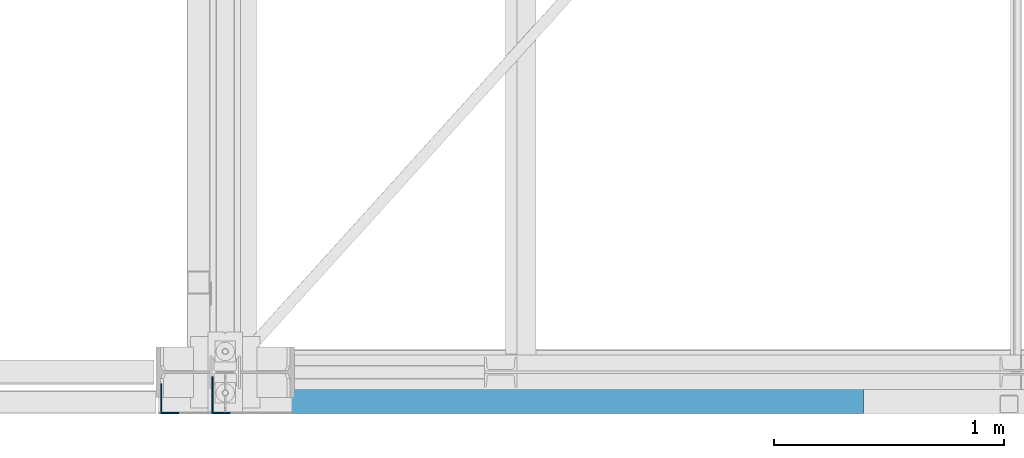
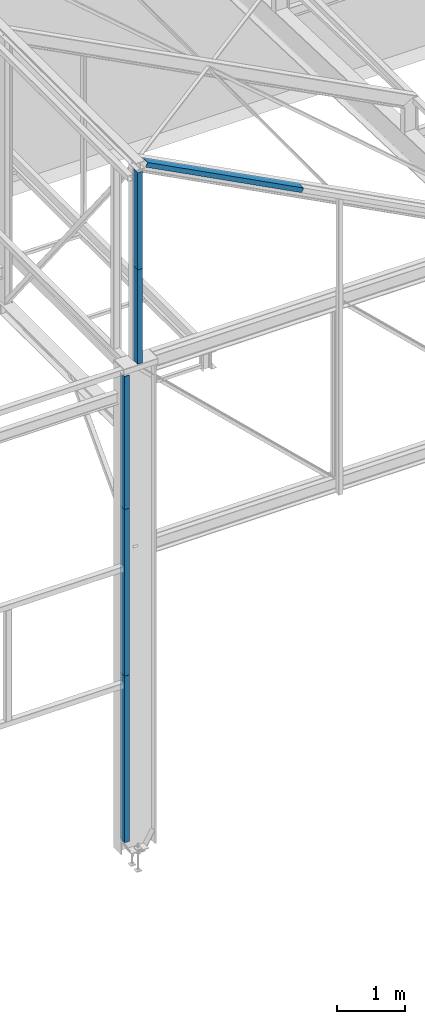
# One storey, part 115 of 123: 6 beams, 6 elements without a shape of their own.
"""IFC2X3 building model written with IfcOpenShell, lengths in millimetres."""

from ifc_helpers import new_model, si_unit, frame, origin_with_axes, place, context, subcontext, project, spatial, faceted_brep, material, type_object, element, aggregate, save


model = new_model("IFC2X3")

# Units and contexts
model_context = context("Model", 3, precision=1e-05, world=origin_with_axes())
body_context = subcontext(model_context, "Body", "Model", "MODEL_VIEW")
ifc_project = project(units=[si_unit("LENGTHUNIT", "METRE", prefix="MILLI"), si_unit("AREAUNIT", "SQUARE_METRE"), si_unit("VOLUMEUNIT", "CUBIC_METRE"), si_unit("MASSUNIT", "GRAM", prefix="KILO"), si_unit("TIMEUNIT", "SECOND"), si_unit("PLANEANGLEUNIT", "RADIAN"), si_unit("SOLIDANGLEUNIT", "STERADIAN"), si_unit("THERMODYNAMICTEMPERATUREUNIT", "DEGREE_CELSIUS"), si_unit("LUMINOUSINTENSITYUNIT", "LUMEN")], contexts=[model_context])

# Site, building, storey
site_placement = place(None, origin_with_axes())
site = spatial("IfcSite", under=ifc_project, at=site_placement, Name="Undefined", CompositionType="ELEMENT")
building_placement = place(site_placement, origin_with_axes())
building = spatial("IfcBuilding", under=site, at=building_placement, Name="Undefined", CompositionType="ELEMENT")
storey_placement = place(building_placement, origin_with_axes())
storey = spatial("IfcBuildingStorey", under=building, at=storey_placement, Name="Undefined", CompositionType="ELEMENT", Elevation=0.0)

# Assembly, beam
assembly_1_placement = place(storey_placement, origin_with_axes())
assembly_1 = element("IfcElementAssembly", 1, at=assembly_1_placement, inside=storey, Name="Steel Assembly", AssemblyPlace="NOTDEFINED", PredefinedType="RIGID_FRAME")
ifc_material = material(Name="STEEL/S235-E24")
beam_type_1 = type_object("IfcBeamType", Name="PL5*3000", PredefinedType="NOTDEFINED")
beam_1_placement = place(assembly_1_placement, frame((14086.3448575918, -177.499999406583, 11369.5843721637), z_axis=(0.886082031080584, 0.0, -0.463528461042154), x_axis=(0.463528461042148, -7.00000004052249e-09, 0.886082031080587)))
beam_1 = element("IfcBeam", 2, at=beam_1_placement, type_object=beam_type_1, material=ifc_material, Name="FEUILLURE", ObjectType="PL5*3000", context=body_context, shape_type="Brep", body=[
    faceted_brep([(1.43700162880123e-09, -2.5, -1500.0), (6.47560227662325e-10, -2.49999999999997, 1500.0), (-1.43700162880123e-09, 2.50000000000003, 1500.0), (-6.43922248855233e-10, 2.5, -1500.0), (80.0000297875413, 2.50000003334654, 1500.00000000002), (80.0000297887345, 2.50000003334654, -1499.99999999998), (75.0000297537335, -2.4999999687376, -1499.99999999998), (75.0000297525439, -2.4999999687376, 1500.00000000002), (80.0000286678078, -157.500000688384, 1500.00000000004), (80.0000286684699, -157.50000068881, -1499.99999999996), (75.0000286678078, -157.500000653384, 1500.00000000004), (75.0000286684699, -157.50000065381, -1499.99999999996)], [[[0, 1, 2, 3]], [[3, 2, 4, 5]], [[1, 0, 6, 7]], [[5, 4, 8, 9]], [[4, 2, 1, 7, 10, 8]], [[7, 6, 11, 10]], [[6, 0, 3, 5, 9, 11]], [[10, 11, 9, 8]]]),
])
aggregate(assembly_1, [beam_1])

assembly_2_placement = place(storey_placement, origin_with_axes())
assembly_2 = element("IfcElementAssembly", 3, at=assembly_2_placement, inside=storey, Name="Steel Assembly", AssemblyPlace="NOTDEFINED", PredefinedType="RIGID_FRAME")
beam_2_placement = place(assembly_2_placement, frame((12479.0000322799, -177.499999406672, 4520.0000156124), z_axis=(0.0, 0.0, 1.0), x_axis=(-1.0, 0.0, 0.0)))
beam_2 = element("IfcBeam", 4, at=beam_2_placement, type_object=beam_type_1, material=ifc_material, Name="FEUILLURE", ObjectType="PL5*3000", context=body_context, shape_type="Brep", body=[
    faceted_brep([(1.43700162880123e-09, -2.5, -1500.0), (6.47560227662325e-10, -2.49999999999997, 1500.0), (-1.43700162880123e-09, 2.50000000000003, 1500.0), (-6.43922248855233e-10, 2.5, -1500.0), (80.0000297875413, 2.50000003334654, 1500.00000000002), (80.0000297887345, 2.50000003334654, -1499.99999999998), (75.0000297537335, -2.4999999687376, -1499.99999999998), (75.0000297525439, -2.4999999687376, 1500.00000000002), (80.0000295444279, -127.500000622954, 1500.0), (80.0000295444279, -127.500000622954, -1500.0), (75.0000295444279, -127.500000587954, 1500.0), (75.0000295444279, -127.500000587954, -1500.0)], [[[0, 1, 2, 3]], [[3, 2, 4, 5]], [[1, 0, 6, 7]], [[5, 4, 8, 9]], [[4, 2, 1, 7, 10, 8]], [[7, 6, 11, 10]], [[6, 0, 3, 5, 9, 11]], [[10, 11, 9, 8]]]),
])
aggregate(assembly_2, [beam_2])

assembly_3_placement = place(storey_placement, origin_with_axes())
assembly_3 = element("IfcElementAssembly", 5, at=assembly_3_placement, inside=storey, Name="Steel Assembly", AssemblyPlace="NOTDEFINED", PredefinedType="RIGID_FRAME")
beam_3_placement = place(assembly_3_placement, frame((12479.0000313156, -177.499999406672, 1520.00001560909), z_axis=(0.0, 0.0, 1.0), x_axis=(-1.0, 0.0, 0.0)))
beam_3 = element("IfcBeam", 6, at=beam_3_placement, type_object=beam_type_1, material=ifc_material, Name="FEUILLURE", ObjectType="PL5*3000", context=body_context, shape_type="Brep", body=[
    faceted_brep([(1.43700162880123e-09, -2.5, -1500.0), (6.47560227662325e-10, -2.49999999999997, 1500.0), (-1.43700162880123e-09, 2.50000000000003, 1500.0), (-6.43922248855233e-10, 2.5, -1500.0), (80.0000297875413, 2.50000003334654, 1500.00000000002), (80.0000297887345, 2.50000003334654, -1499.99999999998), (75.0000297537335, -2.4999999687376, -1499.99999999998), (75.0000297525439, -2.4999999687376, 1500.00000000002), (80.0000295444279, -127.500000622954, 1500.0), (80.0000295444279, -127.500000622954, -1500.0), (75.0000295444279, -127.500000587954, 1500.0), (75.0000295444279, -127.500000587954, -1500.0)], [[[0, 1, 2, 3]], [[3, 2, 4, 5]], [[1, 0, 6, 7]], [[5, 4, 8, 9]], [[4, 2, 1, 7, 10, 8]], [[7, 6, 11, 10]], [[6, 0, 3, 5, 9, 11]], [[10, 11, 9, 8]]]),
])
aggregate(assembly_3, [beam_3])

assembly_4_placement = place(storey_placement, origin_with_axes())
assembly_4 = element("IfcElementAssembly", 7, at=assembly_4_placement, inside=storey, Name="Steel Assembly", AssemblyPlace="NOTDEFINED", PredefinedType="RIGID_FRAME")
beam_type_2 = type_object("IfcBeamType", Name="PL5*1750", PredefinedType="NOTDEFINED")
beam_4_placement = place(assembly_4_placement, frame((12702.0000304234, -177.499999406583, 11135.0000000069), z_axis=(0.0, 0.0, 1.0), x_axis=(-1.0, 0.0, 0.0)))
beam_4 = element("IfcBeam", 8, at=beam_4_placement, type_object=beam_type_2, material=ifc_material, Name="FEUILLURE", ObjectType="PL5*1750", context=body_context, shape_type="Brep", body=[
    faceted_brep([(1.04591890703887e-09, -2.49999999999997, -875.0), (1.04591890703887e-09, -2.49999999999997, 875.0), (-1.04773789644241e-09, 2.50000000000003, 875.0), (-1.04773789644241e-09, 2.50000000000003, -875.0), (80.0000304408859, 2.50000003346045, 875.0), (80.0000304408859, 2.50000003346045, -875.0), (75.0000304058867, -2.49999996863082, -875.0), (75.0000304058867, -2.49999996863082, 875.0), (80.0000293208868, -157.500000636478, 875.0), (80.0000293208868, -157.500000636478, -875.0), (75.0000293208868, -157.500000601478, 875.0), (75.0000293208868, -157.500000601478, -875.0)], [[[0, 1, 2, 3]], [[3, 2, 4, 5]], [[1, 0, 6, 7]], [[5, 4, 8, 9]], [[4, 2, 1, 7, 10, 8]], [[7, 6, 11, 10]], [[6, 0, 3, 5, 9, 11]], [[10, 11, 9, 8]]]),
])
aggregate(assembly_4, [beam_4])

assembly_5_placement = place(storey_placement, origin_with_axes())
assembly_5 = element("IfcElementAssembly", 9, at=assembly_5_placement, inside=storey, Name="Steel Assembly", AssemblyPlace="NOTDEFINED", PredefinedType="RIGID_FRAME")
beam_type_3 = type_object("IfcBeamType", Name="PL5*1700", PredefinedType="NOTDEFINED")
beam_5_placement = place(assembly_5_placement, frame((12702.0000304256, -177.499999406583, 9410.00000000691), z_axis=(0.0, 0.0, 1.0), x_axis=(-1.0, 0.0, 0.0)))
beam_5 = element("IfcBeam", 10, at=beam_5_placement, type_object=beam_type_3, material=ifc_material, Name="FEUILLURE", ObjectType="PL5*1700", context=body_context, shape_type="Brep", body=[
    faceted_brep([(1.04591890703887e-09, -2.49999999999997, -850.0), (1.04591890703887e-09, -2.49999999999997, 850.0), (-1.04773789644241e-09, 2.50000000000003, 850.0), (-1.04773789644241e-09, 2.50000000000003, -850.0), (80.000030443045, 2.50000003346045, 850.0), (80.000030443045, 2.50000003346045, -850.0), (75.0000304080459, -2.49999996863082, -850.0), (75.0000304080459, -2.49999996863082, 850.0), (80.000029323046, -157.500000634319, 850.0), (80.000029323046, -157.500000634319, -850.0), (75.000029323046, -157.500000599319, 850.0), (75.000029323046, -157.500000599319, -850.0)], [[[0, 1, 2, 3]], [[3, 2, 4, 5]], [[1, 0, 6, 7]], [[5, 4, 8, 9]], [[4, 2, 1, 7, 10, 8]], [[7, 6, 11, 10]], [[6, 0, 3, 5, 9, 11]], [[10, 11, 9, 8]]]),
])
aggregate(assembly_5, [beam_5])

assembly_6_placement = place(storey_placement, origin_with_axes())
assembly_6 = element("IfcElementAssembly", 11, at=assembly_6_placement, inside=storey, Name="Steel Assembly", AssemblyPlace="NOTDEFINED", PredefinedType="RIGID_FRAME")
beam_type_4 = type_object("IfcBeamType", Name="PL5*2400", PredefinedType="NOTDEFINED")
beam_6_placement = place(assembly_6_placement, frame((12479.0000332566, -177.499999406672, 7220.0000156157), z_axis=(0.0, 0.0, 1.0), x_axis=(-1.0, 0.0, 0.0)))
beam_6 = element("IfcBeam", 12, at=beam_6_placement, type_object=beam_type_4, material=ifc_material, Name="FEUILLURE", ObjectType="PL5*2400", context=body_context, shape_type="Brep", body=[
    faceted_brep([(-1.45155354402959e-09, -2.5, -1200.0), (-1.45155354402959e-09, -2.5, 1200.0), (1.45519152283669e-09, 2.5, 1200.0), (1.45519152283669e-09, 2.5, -1200.0), (80.0000304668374, 2.50000003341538, 1200.0), (80.0000304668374, 2.50000003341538, -1200.0), (75.0000304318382, -2.49999996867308, -1200.0), (75.0000304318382, -2.49999996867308, 1200.0), (80.0000295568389, -127.500000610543, 1200.0), (80.0000295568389, -127.500000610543, -1200.0), (75.0000295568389, -127.500000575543, 1200.0), (75.0000295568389, -127.500000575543, -1200.0)], [[[0, 1, 2, 3]], [[3, 2, 4, 5]], [[1, 0, 6, 7]], [[5, 4, 8, 9]], [[4, 2, 1, 7, 10, 8]], [[7, 6, 11, 10]], [[6, 0, 3, 5, 9, 11]], [[10, 11, 9, 8]]]),
])
aggregate(assembly_6, [beam_6])

save(model, "model.ifc")
